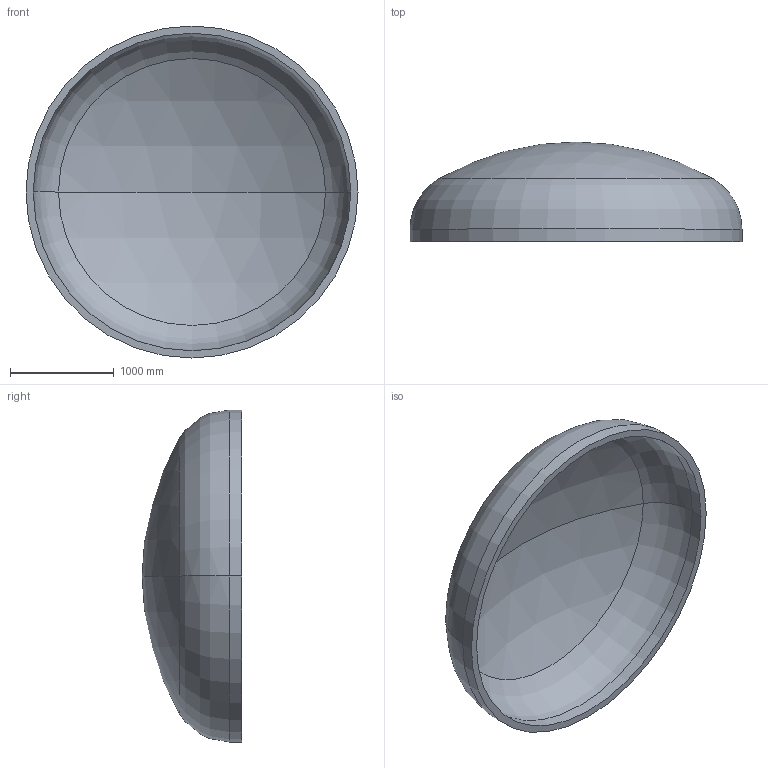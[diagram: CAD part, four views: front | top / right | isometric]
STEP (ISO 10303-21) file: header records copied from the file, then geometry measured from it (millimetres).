
FILE_DESCRIPTION (( 'STEP AP203' ), '1' );
FILE_NAME ('DIN 28013 Korbbogenform_-_Boden DIN 28013 - 3200 x 120 - I - s=70.step', '2016-07-01T18:48:55', ( '' ), ( '' ), 'SwSTEP 2.0', 'SolidWorks 2013', '' );
FILE_SCHEMA (( 'CONFIG_CONTROL_DESIGN' ));
Length unit declared in the file: millimetre
Products named in the file (1): DIN 28013 Korbbogenform_-_Boden DIN 28013 - 3200 x 120 - I - s=70
Bounding box: 3200 x 960.22 x 3200 mm (x, y, z)
Volume: 839347395.6 mm3; surface area: 24679931.5 mm2
Topology: 1 solids, 1 shells, 13 faces, 24 edges, 14 vertices
Faces by surface type: torus 4, cylinder 4, sphere 4, plane 1
Entity records: 407 total; most frequent: DIRECTION 72, CARTESIAN_POINT 52, ORIENTED_EDGE 48, AXIS2_PLACEMENT_3D 34, EDGE_CURVE 24, CIRCLE 20, EDGE_LOOP 14, VERTEX_POINT 14
